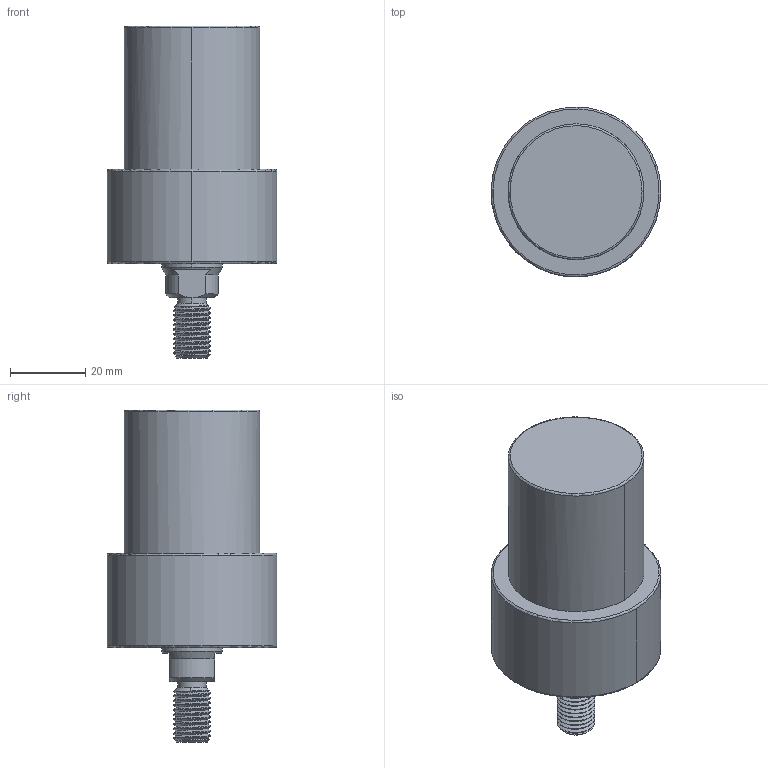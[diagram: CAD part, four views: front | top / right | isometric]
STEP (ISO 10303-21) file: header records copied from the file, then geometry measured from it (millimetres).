
FILE_DESCRIPTION((' '),'2;1');
FILE_NAME( 'TLLU-036GT-030.STEP.stp', '2025-10-24T16:37:07', (' '), ('--- Datakit www.datakit.com---'), ' Datakit CrossCadWare V2024.1 Dec 21 2023', 'Mastercam 2025', ' ');
FILE_SCHEMA(('AUTOMOTIVE_DESIGN { 1 0 10303 214 1 1 1 1 }'));
Length unit declared in the file: millimetre
Products named in the file (1): TLLU-036GT-030
Bounding box: 44.99 x 45 x 88 mm (x, y, z)
Volume: 80216.3 mm3; surface area: 12652.2 mm2
Topology: 1 solids, 1 shells, 88 faces, 294 edges, 209 vertices
Faces by surface type: cylinder 43, cone 26, plane 11, torus 6, bspline 2
Entity records: 8130 total; most frequent: CARTESIAN_POINT 5646, ORIENTED_EDGE 572, DIRECTION 468, EDGE_CURVE 286, VERTEX_POINT 209, AXIS2_PLACEMENT_3D 199, CIRCLE 112, B_SPLINE_CURVE_WITH_KNOTS 104
